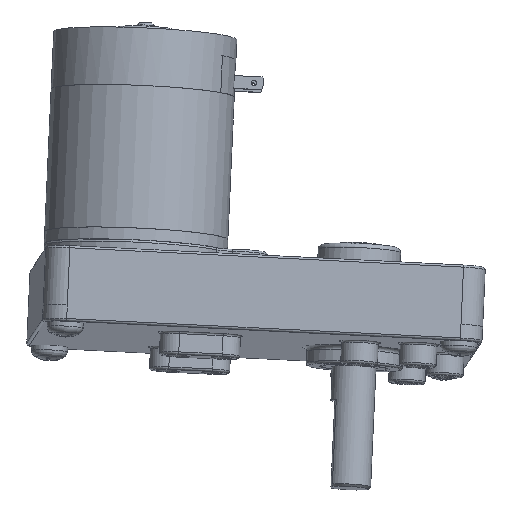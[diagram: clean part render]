
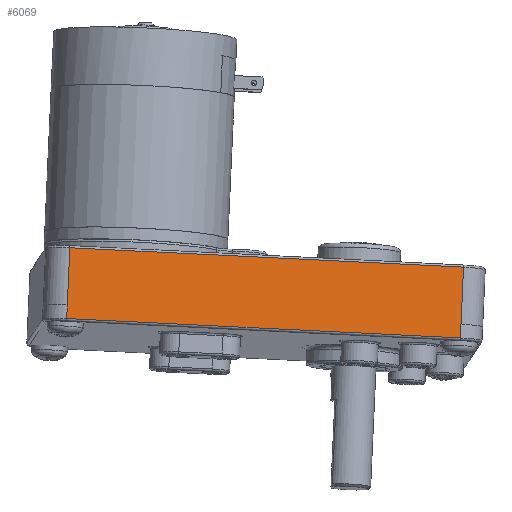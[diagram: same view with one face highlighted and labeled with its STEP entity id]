
A CAD part, left-side view. The second image highlights one B-rep face of the part: STEP entity #6069.
In plain terms, the highlighted planar face has unit normal (-0.995, -0.054, 0.082) as drawn and (-0.999, -0.053, 0) by its records, which use the part's own axes.
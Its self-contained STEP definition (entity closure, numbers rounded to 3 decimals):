
#439=LINE('',#10828,#643);
#441=LINE('',#10834,#645);
#442=LINE('',#10836,#646);
#443=LINE('',#10838,#647);
#444=LINE('',#10840,#648);
#445=LINE('',#10841,#649);
#643=VECTOR('',#7972,3.);
#645=VECTOR('',#7978,86.);
#646=VECTOR('',#7979,3.);
#647=VECTOR('',#7980,12.5);
#648=VECTOR('',#7981,86.);
#649=VECTOR('',#7982,12.5);
#914=PLANE('',#6694);
#1382=FACE_OUTER_BOUND('',#1845,.T.);
#1845=EDGE_LOOP('',(#4872,#4873,#4874,#4875,#4876,#4877));
#3011=VERTEX_POINT('',#10824);
#3013=VERTEX_POINT('',#10827);
#3015=VERTEX_POINT('',#10833);
#3016=VERTEX_POINT('',#10835);
#3017=VERTEX_POINT('',#10837);
#3018=VERTEX_POINT('',#10839);
#3717=EDGE_CURVE('',#3011,#3013,#439,.T.);
#3720=EDGE_CURVE('',#3015,#3011,#441,.T.);
#3721=EDGE_CURVE('',#3015,#3016,#442,.T.);
#3722=EDGE_CURVE('',#3017,#3016,#443,.T.);
#3723=EDGE_CURVE('',#3018,#3017,#444,.T.);
#3724=EDGE_CURVE('',#3018,#3013,#445,.T.);
#4872=ORIENTED_EDGE('',*,*,#3720,.F.);
#4873=ORIENTED_EDGE('',*,*,#3721,.T.);
#4874=ORIENTED_EDGE('',*,*,#3722,.F.);
#4875=ORIENTED_EDGE('',*,*,#3723,.F.);
#4876=ORIENTED_EDGE('',*,*,#3724,.T.);
#4877=ORIENTED_EDGE('',*,*,#3717,.F.);
#6069=ADVANCED_FACE('',(#1382),#914,.T.);
#6694=AXIS2_PLACEMENT_3D('',#10832,#7976,#7977);
#7972=DIRECTION('',(0.,0.,1.));
#7976=DIRECTION('center_axis',(-0.999,-0.053,0.));
#7977=DIRECTION('ref_axis',(0.,0.,1.));
#7978=DIRECTION('',(-0.053,0.999,0.));
#7979=DIRECTION('',(0.,0.,1.));
#7980=DIRECTION('',(0.,0.,-1.));
#7981=DIRECTION('',(0.053,-0.999,0.));
#7982=DIRECTION('',(0.,0.,-1.));
#10824=CARTESIAN_POINT('',(-198.197,167.806,-87.187));
#10827=CARTESIAN_POINT('',(-198.197,167.806,-84.187));
#10828=CARTESIAN_POINT('',(-198.197,167.806,-87.187));
#10832=CARTESIAN_POINT('Origin',(-193.674,81.925,-87.687));
#10833=CARTESIAN_POINT('',(-193.674,81.925,-87.187));
#10834=CARTESIAN_POINT('',(-193.674,81.925,-87.187));
#10835=CARTESIAN_POINT('',(-193.674,81.925,-84.187));
#10836=CARTESIAN_POINT('',(-193.674,81.925,-87.187));
#10837=CARTESIAN_POINT('',(-193.674,81.925,-71.687));
#10838=CARTESIAN_POINT('',(-193.674,81.925,-71.687));
#10839=CARTESIAN_POINT('',(-198.197,167.806,-71.687));
#10840=CARTESIAN_POINT('',(-198.197,167.806,-71.687));
#10841=CARTESIAN_POINT('',(-198.197,167.806,-71.687));
